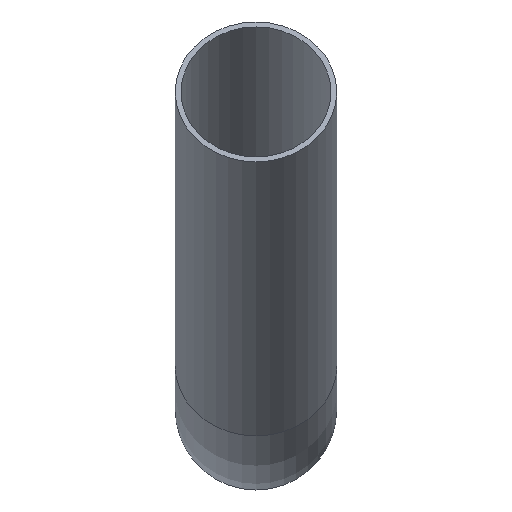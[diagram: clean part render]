
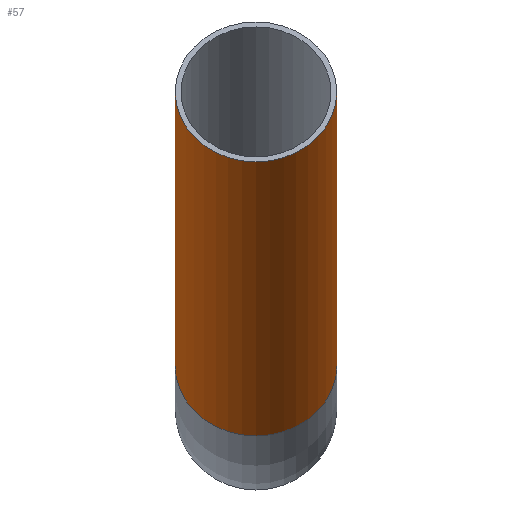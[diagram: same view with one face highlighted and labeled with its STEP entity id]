
A CAD part, front view. The second image highlights one B-rep face of the part: STEP entity #57.
In plain terms, the highlighted cylindrical face has radius 14 mm (diameter 28 mm), a full revolution.
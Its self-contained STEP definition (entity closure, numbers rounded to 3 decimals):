
#57=ADVANCED_FACE('',(#97,#99),#101,.T.);
#97=FACE_OUTER_BOUND('',#98,.T.);
#98=EDGE_LOOP('',(#141));
#99=FACE_OUTER_BOUND('',#100,.T.);
#100=EDGE_LOOP('',(#142));
#101=CYLINDRICAL_SURFACE('',#102,14.);
#102=AXIS2_PLACEMENT_3D('',#103,#104,#105);
#103=CARTESIAN_POINT('',(0.,-12.995,7.503));
#104=DIRECTION('',(0.,-0.866,0.5));
#105=DIRECTION('',(-1.,0.,0.));
#141=ORIENTED_EDGE('',*,*,#153,.T.);
#142=ORIENTED_EDGE('',*,*,#155,.F.);
#153=EDGE_CURVE('',#165,#165,#166,.T.);
#155=EDGE_CURVE('',#169,#169,#170,.T.);
#165=VERTEX_POINT('',#193);
#166=CIRCLE('',#194,14.);
#169=VERTEX_POINT('',#203);
#170=CIRCLE('',#204,14.);
#193=CARTESIAN_POINT('',(-14.,-12.995,7.503));
#194=AXIS2_PLACEMENT_3D('',#195,#196,#197);
#195=CARTESIAN_POINT('',(0.,-12.995,7.503));
#196=DIRECTION('',(0.,-0.866,0.5));
#197=DIRECTION('',(-1.,0.,0.));
#203=CARTESIAN_POINT('',(-14.,-95.263,55.));
#204=AXIS2_PLACEMENT_3D('',#205,#206,#207);
#205=CARTESIAN_POINT('',(0.,-95.263,55.));
#206=DIRECTION('',(0.,-0.866,0.5));
#207=DIRECTION('',(-1.,0.,0.));
